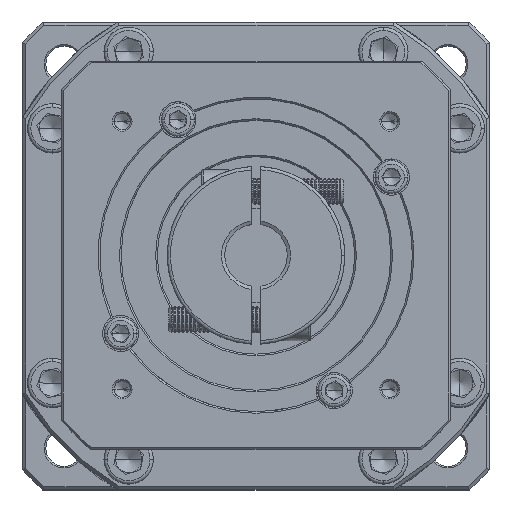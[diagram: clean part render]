
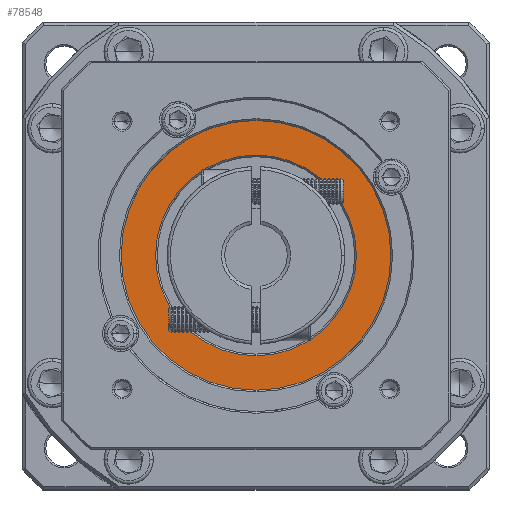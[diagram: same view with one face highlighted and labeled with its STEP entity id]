
A CAD part, top view. The second image highlights one B-rep face of the part: STEP entity #78548.
In plain terms, the highlighted planar face has unit normal (0, 0, 1).
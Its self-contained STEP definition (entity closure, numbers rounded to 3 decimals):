
#5769 = CIRCLE ( 'NONE', #71336, 30.5 ) ;
#7357 = AXIS2_PLACEMENT_3D ( 'NONE', #114980, #86644, #125921 ) ;
#8393 = DIRECTION ( 'NONE',  ( 1., 0., 0. ) ) ;
#10823 = CARTESIAN_POINT ( 'NONE',  ( -37.741, -4.487, 350.3 ) ) ;
#15468 = EDGE_LOOP ( 'NONE', ( #96118, #126551 ) ) ;
#16956 = EDGE_CURVE ( 'NONE', #112733, #114063, #101704, .T. ) ;
#17889 = VERTEX_POINT ( 'NONE', #46783 ) ;
#19251 = DIRECTION ( 'NONE',  ( 0., 0., 1. ) ) ;
#23207 = CARTESIAN_POINT ( 'NONE',  ( -37.741, -4.487, 350.3 ) ) ;
#25206 = AXIS2_PLACEMENT_3D ( 'NONE', #10823, #120066, #120932 ) ;
#26890 = EDGE_LOOP ( 'NONE', ( #105000, #31503 ) ) ;
#31503 = ORIENTED_EDGE ( 'NONE', *, *, #38447, .T. ) ;
#34143 = DIRECTION ( 'NONE',  ( 0., 0., -1. ) ) ;
#34574 = CARTESIAN_POINT ( 'NONE',  ( -37.741, -4.487, 350.3 ) ) ;
#38447 = EDGE_CURVE ( 'NONE', #17889, #69856, #5769, .T. ) ;
#44872 = CARTESIAN_POINT ( 'NONE',  ( -78.741, -4.487, 350.3 ) ) ;
#46783 = CARTESIAN_POINT ( 'NONE',  ( -68.241, -4.487, 350.3 ) ) ;
#49382 = FACE_BOUND ( 'NONE', #26890, .T. ) ;
#58754 = FACE_OUTER_BOUND ( 'NONE', #15468, .T. ) ;
#65440 = CIRCLE ( 'NONE', #128718, 41. ) ;
#69856 = VERTEX_POINT ( 'NONE', #96977 ) ;
#71336 = AXIS2_PLACEMENT_3D ( 'NONE', #34574, #34143, #92574 ) ;
#72404 = DIRECTION ( 'NONE',  ( 0., 0., 1. ) ) ;
#73500 = AXIS2_PLACEMENT_3D ( 'NONE', #23207, #72404, #91960 ) ;
#78548 = ADVANCED_FACE ( 'NONE', ( #58754, #49382 ), #103252, .T. ) ;
#81350 = EDGE_CURVE ( 'NONE', #69856, #17889, #87061, .T. ) ;
#86644 = DIRECTION ( 'NONE',  ( 0., 0., 1. ) ) ;
#87061 = CIRCLE ( 'NONE', #25206, 30.5 ) ;
#91960 = DIRECTION ( 'NONE',  ( 1., 0., 0. ) ) ;
#92574 = DIRECTION ( 'NONE',  ( 1., 0., 0. ) ) ;
#96118 = ORIENTED_EDGE ( 'NONE', *, *, #16956, .T. ) ;
#96977 = CARTESIAN_POINT ( 'NONE',  ( -7.241, -4.487, 350.3 ) ) ;
#101704 = CIRCLE ( 'NONE', #73500, 41. ) ;
#103252 = PLANE ( 'NONE',  #7357 ) ;
#105000 = ORIENTED_EDGE ( 'NONE', *, *, #81350, .T. ) ;
#112733 = VERTEX_POINT ( 'NONE', #123171 ) ;
#114063 = VERTEX_POINT ( 'NONE', #44872 ) ;
#114980 = CARTESIAN_POINT ( 'NONE',  ( -37.741, -4.487, 350.3 ) ) ;
#119007 = EDGE_CURVE ( 'NONE', #114063, #112733, #65440, .T. ) ;
#120066 = DIRECTION ( 'NONE',  ( 0., 0., -1. ) ) ;
#120932 = DIRECTION ( 'NONE',  ( 1., 0., 0. ) ) ;
#123171 = CARTESIAN_POINT ( 'NONE',  ( 3.259, -4.487, 350.3 ) ) ;
#125921 = DIRECTION ( 'NONE',  ( 1., 0., 0. ) ) ;
#126551 = ORIENTED_EDGE ( 'NONE', *, *, #119007, .T. ) ;
#128593 = CARTESIAN_POINT ( 'NONE',  ( -37.741, -4.487, 350.3 ) ) ;
#128718 = AXIS2_PLACEMENT_3D ( 'NONE', #128593, #19251, #8393 ) ;
